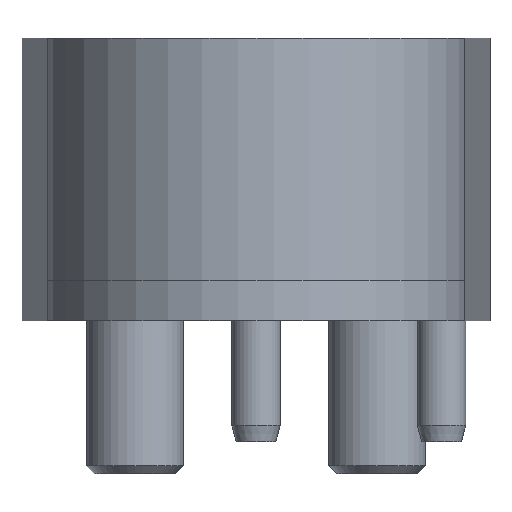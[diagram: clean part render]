
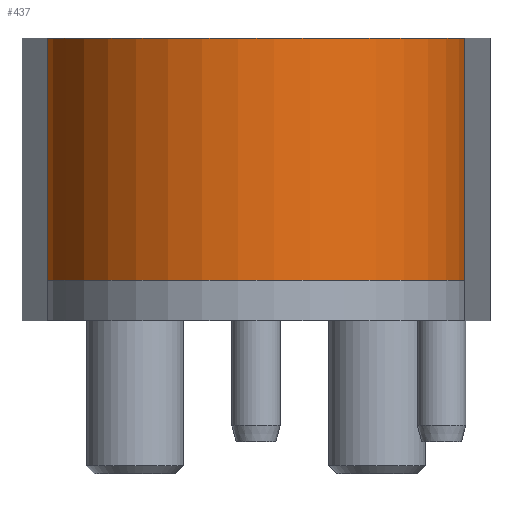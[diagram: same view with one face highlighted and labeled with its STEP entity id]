
A CAD part, left-side view. The second image highlights one B-rep face of the part: STEP entity #437.
In plain terms, the highlighted cylindrical face has radius 26 mm (diameter 52 mm), a partial arc.
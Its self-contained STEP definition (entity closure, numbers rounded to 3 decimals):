
#119=CYLINDRICAL_SURFACE('',#2648,26.);
#273=CIRCLE('',#2646,26.);
#274=CIRCLE('',#2647,26.);
#437=ADVANCED_FACE('',(#657),#119,.T.);
#657=FACE_OUTER_BOUND('',#797,.T.);
#797=EDGE_LOOP('',(#1083,#1084,#1085,#1086));
#1083=ORIENTED_EDGE('',*,*,#1933,.T.);
#1084=ORIENTED_EDGE('',*,*,#1934,.F.);
#1085=ORIENTED_EDGE('',*,*,#1935,.F.);
#1086=ORIENTED_EDGE('',*,*,#1936,.T.);
#1687=VERTEX_POINT('',#3845);
#1688=VERTEX_POINT('',#3846);
#1689=VERTEX_POINT('',#3848);
#1690=VERTEX_POINT('',#3850);
#1933=EDGE_CURVE('',#1687,#1688,#2263,.T.);
#1934=EDGE_CURVE('',#1689,#1688,#273,.T.);
#1935=EDGE_CURVE('',#1690,#1689,#2264,.T.);
#1936=EDGE_CURVE('',#1690,#1687,#274,.T.);
#2263=LINE('',#3844,#2455);
#2264=LINE('',#3849,#2456);
#2455=VECTOR('',#3047,1.);
#2456=VECTOR('',#3050,1.);
#2646=AXIS2_PLACEMENT_3D('',#3847,#3048,#3049);
#2647=AXIS2_PLACEMENT_3D('',#3851,#3051,#3052);
#2648=AXIS2_PLACEMENT_3D('',#3852,#3053,#3054);
#3047=DIRECTION('',(0.,0.,1.));
#3048=DIRECTION('',(0.,0.,1.));
#3049=DIRECTION('',(0.,1.,0.));
#3050=DIRECTION('',(0.,0.,1.));
#3051=DIRECTION('',(0.,0.,1.));
#3052=DIRECTION('',(0.,1.,0.));
#3053=DIRECTION('',(0.,0.,1.));
#3054=DIRECTION('',(-1.,0.,0.));
#3844=CARTESIAN_POINT('',(-2.342,-25.894,5.));
#3845=CARTESIAN_POINT('',(-2.342,-25.894,5.));
#3846=CARTESIAN_POINT('',(-2.342,-25.894,35.));
#3847=CARTESIAN_POINT('',(0.,0.,35.));
#3848=CARTESIAN_POINT('',(-2.342,25.894,35.));
#3849=CARTESIAN_POINT('',(-2.342,25.894,5.));
#3850=CARTESIAN_POINT('',(-2.342,25.894,5.));
#3851=CARTESIAN_POINT('',(0.,0.,5.));
#3852=CARTESIAN_POINT('',(0.,0.,0.));
